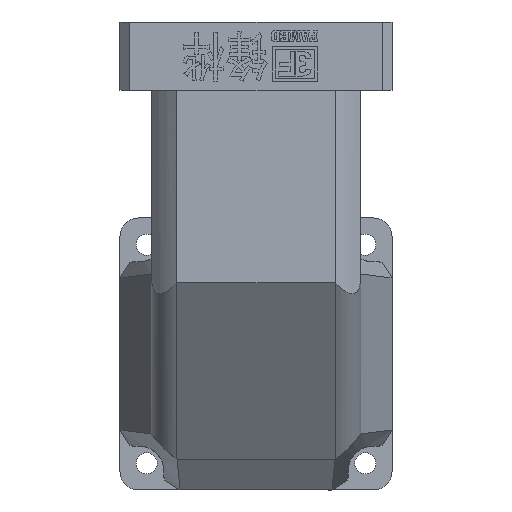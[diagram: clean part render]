
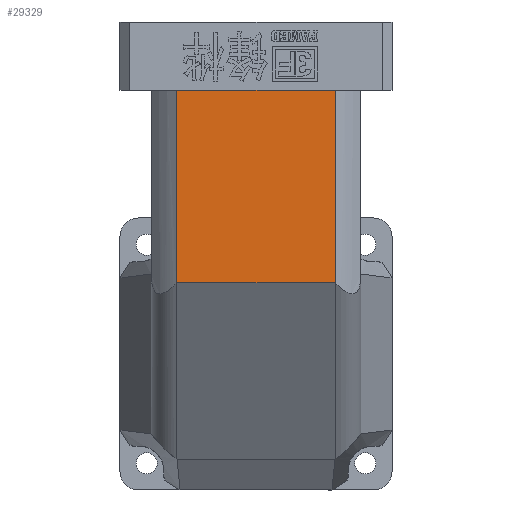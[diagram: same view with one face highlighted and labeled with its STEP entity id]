
A CAD part, left-side view. The second image highlights one B-rep face of the part: STEP entity #29329.
In plain terms, the highlighted planar face has unit normal (-1, 0, 0).
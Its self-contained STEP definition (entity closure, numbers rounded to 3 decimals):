
#2200 = DIRECTION ( 'NONE',  ( 0., 1., 0. ) ) ;
#2330 = LINE ( 'NONE', #33606, #9055 ) ;
#3595 = CARTESIAN_POINT ( 'NONE',  ( -373.5, 64.29, 57.454 ) ) ;
#4549 = FACE_OUTER_BOUND ( 'NONE', #13715, .T. ) ;
#4625 = VERTEX_POINT ( 'NONE', #3595 ) ;
#5897 = ORIENTED_EDGE ( 'NONE', *, *, #23350, .F. ) ;
#6753 = PLANE ( 'NONE',  #10532 ) ;
#9055 = VECTOR ( 'NONE', #2200, 1000. ) ;
#9294 = CARTESIAN_POINT ( 'NONE',  ( -373.5, -64.29, 0. ) ) ;
#10532 = AXIS2_PLACEMENT_3D ( 'NONE', #33640, #16434, #36537 ) ;
#11229 = EDGE_CURVE ( 'NONE', #14584, #30909, #34789, .T. ) ;
#11661 = ORIENTED_EDGE ( 'NONE', *, *, #21911, .T. ) ;
#12508 = CARTESIAN_POINT ( 'NONE',  ( -373.5, 64.29, 213.5 ) ) ;
#12793 = VECTOR ( 'NONE', #20586, 1000. ) ;
#13715 = EDGE_LOOP ( 'NONE', ( #22639, #11661, #5897, #33455 ) ) ;
#14584 = VERTEX_POINT ( 'NONE', #25581 ) ;
#16434 = DIRECTION ( 'NONE',  ( -1., 0., 0. ) ) ;
#19473 = DIRECTION ( 'NONE',  ( 0., -1., 0. ) ) ;
#20586 = DIRECTION ( 'NONE',  ( 0., 0., 1. ) ) ;
#21843 = CARTESIAN_POINT ( 'NONE',  ( -373.5, 64.29, 213.5 ) ) ;
#21911 = EDGE_CURVE ( 'NONE', #30909, #34282, #2330, .T. ) ;
#22480 = VECTOR ( 'NONE', #19473, 1000. ) ;
#22639 = ORIENTED_EDGE ( 'NONE', *, *, #11229, .T. ) ;
#23350 = EDGE_CURVE ( 'NONE', #4625, #34282, #30862, .T. ) ;
#25581 = CARTESIAN_POINT ( 'NONE',  ( -373.5, -64.29, 57.454 ) ) ;
#29329 = ADVANCED_FACE ( 'NONE', ( #4549 ), #6753, .T. ) ;
#29966 = VECTOR ( 'NONE', #35473, 1000. ) ;
#30862 = LINE ( 'NONE', #12508, #29966 ) ;
#30909 = VERTEX_POINT ( 'NONE', #33519 ) ;
#30969 = LINE ( 'NONE', #33787, #22480 ) ;
#32041 = EDGE_CURVE ( 'NONE', #4625, #14584, #30969, .T. ) ;
#33455 = ORIENTED_EDGE ( 'NONE', *, *, #32041, .T. ) ;
#33519 = CARTESIAN_POINT ( 'NONE',  ( -373.5, -64.29, 213.5 ) ) ;
#33606 = CARTESIAN_POINT ( 'NONE',  ( -373.5, -64.29, 213.5 ) ) ;
#33640 = CARTESIAN_POINT ( 'NONE',  ( -373.5, 0., 0. ) ) ;
#33787 = CARTESIAN_POINT ( 'NONE',  ( -373.5, 0., 57.454 ) ) ;
#34282 = VERTEX_POINT ( 'NONE', #21843 ) ;
#34789 = LINE ( 'NONE', #9294, #12793 ) ;
#35473 = DIRECTION ( 'NONE',  ( 0., 0., 1. ) ) ;
#36537 = DIRECTION ( 'NONE',  ( 0., 0., 1. ) ) ;
